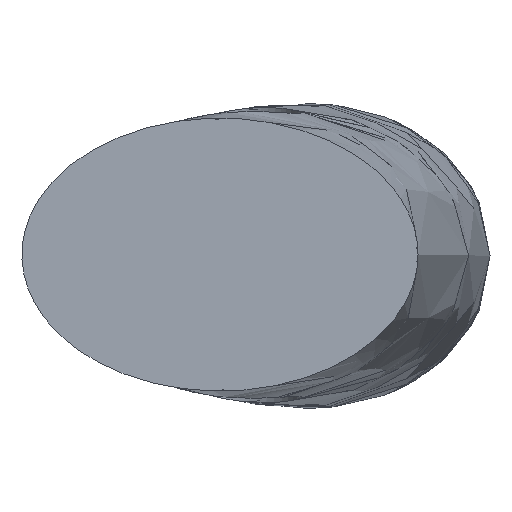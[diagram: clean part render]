
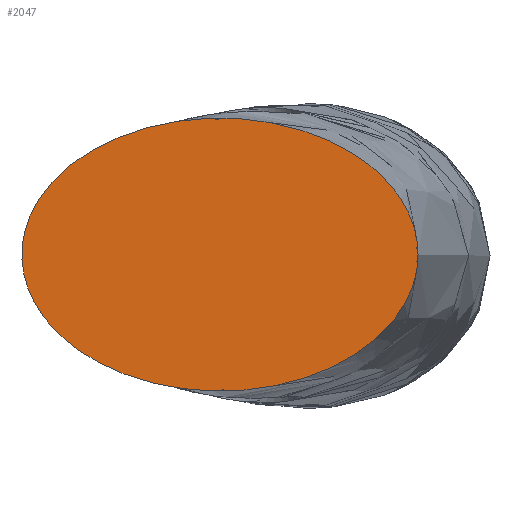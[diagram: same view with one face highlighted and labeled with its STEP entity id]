
A CAD part, top view. The second image highlights one B-rep face of the part: STEP entity #2047.
In plain terms, the highlighted planar face has unit normal (0, 0, 1).
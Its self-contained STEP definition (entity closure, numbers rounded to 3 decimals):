
#22 = VERTEX_POINT('',#23);
#23 = CARTESIAN_POINT('',(14.514,0.,18.));
#32 = B_SPLINE_SURFACE_WITH_KNOTS('',14,2,(
    (#33,#34,#35)
    ,(#36,#37,#38)
    ,(#39,#40,#41)
    ,(#42,#43,#44)
    ,(#45,#46,#47)
    ,(#48,#49,#50)
    ,(#51,#52,#53)
    ,(#54,#55,#56)
    ,(#57,#58,#59)
    ,(#60,#61,#62)
    ,(#63,#64,#65)
    ,(#66,#67,#68)
    ,(#69,#70,#71)
    ,(#72,#73,#74)
    ,(#75,#76,#77
    )),.UNSPECIFIED.,.T.,.F.,.F.,(15,15),(3,3),(0.,1.),(0.,1.),
  .PIECEWISE_BEZIER_KNOTS.);
#33 = CARTESIAN_POINT('',(14.514,0.,18.));
#34 = CARTESIAN_POINT('',(26.798,0.,
    -58.044));
#35 = CARTESIAN_POINT('',(10.76,0.,-134.));
#36 = CARTESIAN_POINT('',(14.514,4.488,18.));
#37 = CARTESIAN_POINT('',(26.798,6.025,-58.044
    ));
#38 = CARTESIAN_POINT('',(10.76,3.142,-134.));
#39 = CARTESIAN_POINT('',(11.366,8.976,18.));
#40 = CARTESIAN_POINT('',(24.024,12.049,-58.044
    ));
#41 = CARTESIAN_POINT('',(8.426,6.283,-134.));
#42 = CARTESIAN_POINT('',(5.069,12.328,18.));
#43 = CARTESIAN_POINT('',(18.476,16.549,
    -58.044));
#44 = CARTESIAN_POINT('',(3.758,8.63,-134.));
#45 = CARTESIAN_POINT('',(-3.434,13.409,18.));
#46 = CARTESIAN_POINT('',(10.984,18.,
    -58.044));
#47 = CARTESIAN_POINT('',(-2.546,9.386,-134.));
#48 = CARTESIAN_POINT('',(-12.261,11.49,18.));
#49 = CARTESIAN_POINT('',(3.207,15.423,-58.044
    ));
#50 = CARTESIAN_POINT('',(-9.09,8.043,-134.));
#51 = CARTESIAN_POINT('',(-18.999,6.659,18.));
#52 = CARTESIAN_POINT('',(-2.73,8.939,-58.044
    ));
#53 = CARTESIAN_POINT('',(-14.086,4.661,-134.));
#54 = CARTESIAN_POINT('',(-21.536,0.,18.));
#55 = CARTESIAN_POINT('',(-4.965,0.,
    -58.044));
#56 = CARTESIAN_POINT('',(-15.966,0.,-134.));
#57 = CARTESIAN_POINT('',(-18.999,-6.659,18.));
#58 = CARTESIAN_POINT('',(-2.73,-8.939,
    -58.044));
#59 = CARTESIAN_POINT('',(-14.086,-4.661,-134.));
#60 = CARTESIAN_POINT('',(-12.261,-11.49,18.));
#61 = CARTESIAN_POINT('',(3.207,-15.423,-58.044
    ));
#62 = CARTESIAN_POINT('',(-9.09,-8.043,-134.));
#63 = CARTESIAN_POINT('',(-3.434,-13.409,18.));
#64 = CARTESIAN_POINT('',(10.984,-18.,-58.044
    ));
#65 = CARTESIAN_POINT('',(-2.546,-9.386,-134.));
#66 = CARTESIAN_POINT('',(5.069,-12.328,18.));
#67 = CARTESIAN_POINT('',(18.476,-16.549,-58.044
    ));
#68 = CARTESIAN_POINT('',(3.758,-8.63,-134.));
#69 = CARTESIAN_POINT('',(11.366,-8.976,18.));
#70 = CARTESIAN_POINT('',(24.024,-12.049,-58.044
    ));
#71 = CARTESIAN_POINT('',(8.426,-6.283,-134.));
#72 = CARTESIAN_POINT('',(14.514,-4.488,18.));
#73 = CARTESIAN_POINT('',(26.798,-6.025,
    -58.044));
#74 = CARTESIAN_POINT('',(10.76,-3.142,-134.));
#75 = CARTESIAN_POINT('',(14.514,0.,18.));
#76 = CARTESIAN_POINT('',(26.798,0.,
    -58.044));
#77 = CARTESIAN_POINT('',(10.76,0.,-134.));
#92 = EDGE_CURVE('',#22,#22,#93,.T.);
#93 = SURFACE_CURVE('',#94,(#110,#117),.PCURVE_S1.);
#94 = B_SPLINE_CURVE_WITH_KNOTS('',14,(#95,#96,#97,#98,#99,#100,#101,
    #102,#103,#104,#105,#106,#107,#108,#109),.UNSPECIFIED.,.T.,.F.,(15,
    15),(0.,1.),.PIECEWISE_BEZIER_KNOTS.);
#95 = CARTESIAN_POINT('',(14.514,0.,18.));
#96 = CARTESIAN_POINT('',(14.514,4.488,18.));
#97 = CARTESIAN_POINT('',(11.366,8.976,18.));
#98 = CARTESIAN_POINT('',(5.069,12.328,18.));
#99 = CARTESIAN_POINT('',(-3.434,13.409,18.));
#100 = CARTESIAN_POINT('',(-12.261,11.49,18.));
#101 = CARTESIAN_POINT('',(-18.999,6.659,18.));
#102 = CARTESIAN_POINT('',(-21.536,0.,18.));
#103 = CARTESIAN_POINT('',(-18.999,-6.659,18.));
#104 = CARTESIAN_POINT('',(-12.261,-11.49,18.));
#105 = CARTESIAN_POINT('',(-3.434,-13.409,18.));
#106 = CARTESIAN_POINT('',(5.069,-12.328,18.));
#107 = CARTESIAN_POINT('',(11.366,-8.976,18.));
#108 = CARTESIAN_POINT('',(14.514,-4.488,18.));
#109 = CARTESIAN_POINT('',(14.514,0.,18.));
#110 = PCURVE('',#32,#111);
#111 = DEFINITIONAL_REPRESENTATION('',(#112),#116);
#112 = LINE('',#113,#114);
#113 = CARTESIAN_POINT('',(0.,0.));
#114 = VECTOR('',#115,1.);
#115 = DIRECTION('',(1.,0.));
#116 = ( GEOMETRIC_REPRESENTATION_CONTEXT(2) 
PARAMETRIC_REPRESENTATION_CONTEXT() REPRESENTATION_CONTEXT('2D SPACE',''
  ) );
#117 = PCURVE('',#118,#123);
#118 = PLANE('',#119);
#119 = AXIS2_PLACEMENT_3D('',#120,#121,#122);
#120 = CARTESIAN_POINT('',(14.514,0.,18.));
#121 = DIRECTION('',(0.,0.,1.));
#122 = DIRECTION('',(-1.,0.,0.));
#123 = DEFINITIONAL_REPRESENTATION('',(#124),#140);
#124 = B_SPLINE_CURVE_WITH_KNOTS('',14,(#125,#126,#127,#128,#129,#130,
    #131,#132,#133,#134,#135,#136,#137,#138,#139),.UNSPECIFIED.,.T.,.F.,
  (15,15),(0.,1.),.PIECEWISE_BEZIER_KNOTS.);
#125 = CARTESIAN_POINT('',(0.,0.));
#126 = CARTESIAN_POINT('',(0.,-4.488));
#127 = CARTESIAN_POINT('',(3.148,-8.976));
#128 = CARTESIAN_POINT('',(9.445,-12.328));
#129 = CARTESIAN_POINT('',(17.948,-13.409));
#130 = CARTESIAN_POINT('',(26.775,-11.49));
#131 = CARTESIAN_POINT('',(33.513,-6.659));
#132 = CARTESIAN_POINT('',(36.05,0.));
#133 = CARTESIAN_POINT('',(33.513,6.659));
#134 = CARTESIAN_POINT('',(26.775,11.49));
#135 = CARTESIAN_POINT('',(17.948,13.409));
#136 = CARTESIAN_POINT('',(9.445,12.328));
#137 = CARTESIAN_POINT('',(3.148,8.976));
#138 = CARTESIAN_POINT('',(0.,4.488));
#139 = CARTESIAN_POINT('',(0.,0.));
#140 = ( GEOMETRIC_REPRESENTATION_CONTEXT(2) 
PARAMETRIC_REPRESENTATION_CONTEXT() REPRESENTATION_CONTEXT('2D SPACE',''
  ) );
#2047 = ADVANCED_FACE('',(#2048),#118,.T.);
#2048 = FACE_BOUND('',#2049,.F.);
#2049 = EDGE_LOOP('',(#2050));
#2050 = ORIENTED_EDGE('',*,*,#92,.F.);
